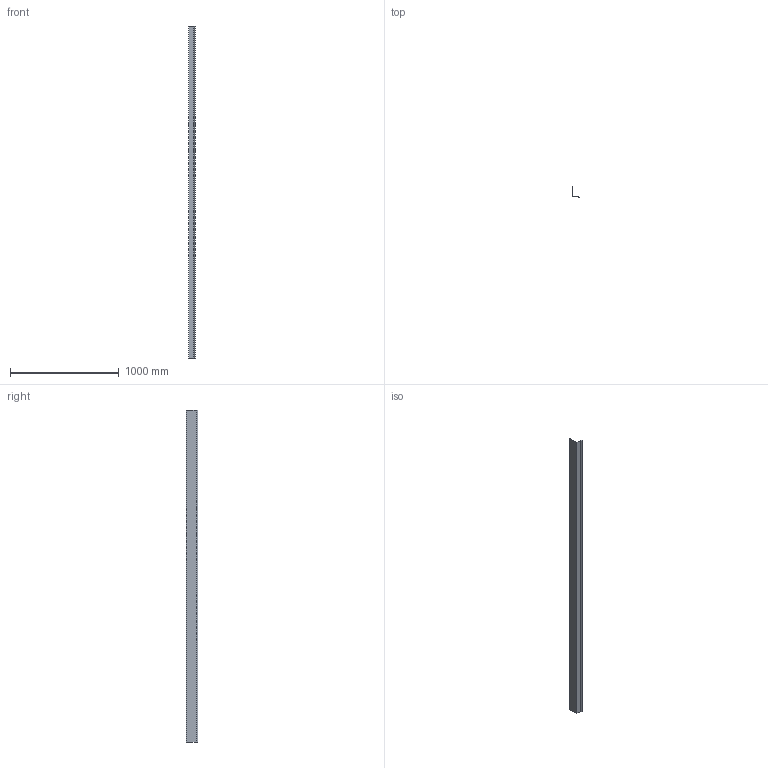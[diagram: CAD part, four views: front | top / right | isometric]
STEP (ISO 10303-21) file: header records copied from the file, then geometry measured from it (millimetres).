
FILE_DESCRIPTION (( 'STEP AP203' ), '1' );
FILE_NAME ('M50E.STEP', '2018-06-19T00:48:13', ( 'Michael Moliner' ), ( '' ), 'SwSTEP 2.0', 'SolidWorks 2018', '' );
FILE_SCHEMA (( 'CONFIG_CONTROL_DESIGN' ));
Length unit declared in the file: inch
Products named in the file (2): M50E
Bounding box: 59.42 x 104.34 x 3048 mm (x, y, z)
Volume: 261601.3 mm3; surface area: 1033194.6 mm2
Topology: 1 solids, 1 shells, 18 faces, 48 edges, 32 vertices
Faces by surface type: plane 12, cylinder 6
Entity records: 721 total; most frequent: DIRECTION 100, CARTESIAN_POINT 100, ORIENTED_EDGE 96, EDGE_CURVE 48, VECTOR 36, LINE 36, AXIS2_PLACEMENT_3D 32, VERTEX_POINT 32
